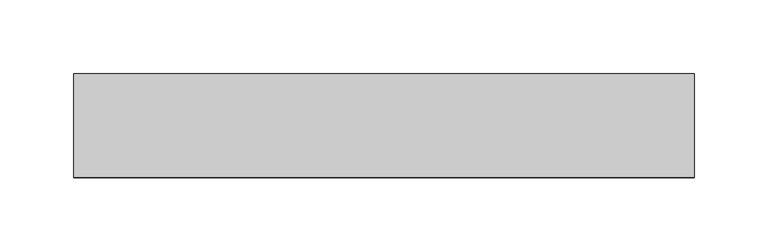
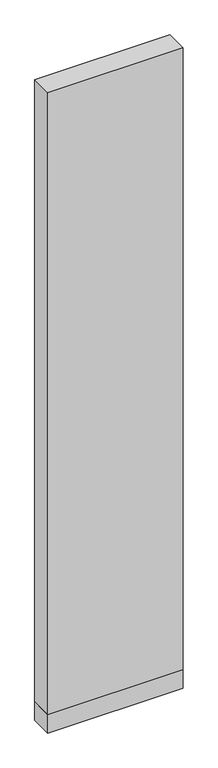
"""IFC4 building model written with IfcOpenShell, lengths in millimetres: plate geometry, 営_パーティションパネル_下部 : パーティションパネル_下部."""

import ifcopenshell
import ifcopenshell.guid

model = None  # the IFC model being written
_history = None  # IfcOwnerHistory: only IFC2X3 demands one
_inside = {}  # id of a spatial element -> (the spatial element, [elements in it])
_under = {}  # id of a project, library or spatial element -> (it, [spatial elements below it])
_declared = {}  # id of a project -> (the project, [libraries it declares])
_typed = {}  # id of a type object -> (the type object, [elements of that type])
_made_of = {}  # id of a material, layer set ... -> (it, [elements and type objects made of it])


def new_model(schema):
    """Start an empty IFC model of exactly this schema.

    Asked for "IFC4X3", IfcOpenShell would pick the latest addendum, in which some entities
    have other attributes; the version numbers below select the first issue.
    IFC2X3 requires an IfcOwnerHistory on every rooted entity: one is made here for all.
    """
    global model, _history
    if schema == "IFC4X3":
        model = ifcopenshell.file(schema_version=(4, 3, 0, 0))
    else:
        model = ifcopenshell.file(schema=schema)
    _inside.clear()
    _under.clear()
    _declared.clear()
    _typed.clear()
    _made_of.clear()
    _history = None
    if model.schema == "IFC2X3":
        org = make("IfcOrganization", Name="unknown")
        user = make(
            "IfcPersonAndOrganization",
            ThePerson=make("IfcPerson", FamilyName="unknown"),
            TheOrganization=org,
        )
        app = make(
            "IfcApplication",
            ApplicationDeveloper=org,
            Version="unknown",
            ApplicationFullName="unknown",
            ApplicationIdentifier="unknown",
        )
        _history = make(
            "IfcOwnerHistory",
            OwningUser=user,
            OwningApplication=app,
            ChangeAction="ADDED",
            CreationDate=0,
        )
    return model


def make(cls, **values):
    """One entity of the class cls with the attributes given. An attribute that is None is left unset."""
    return model.create_entity(
        cls, **{name: value for name, value in values.items() if value is not None}
    )


def rooted(cls, **values):
    """An entity with a GlobalId (a new one), such as an element, a storey or a relation."""
    return make(cls, GlobalId=ifcopenshell.guid.new(), OwnerHistory=_history, **values)


def si_unit(unit_type, name, prefix=None):
    """IfcSIUnit, for example si_unit("LENGTHUNIT", "METRE", prefix="MILLI")."""
    return make("IfcSIUnit", UnitType=unit_type, Prefix=prefix, Name=name)


def assignment(units):
    """IfcUnitAssignment: the units of a project."""
    return None if units is None else make("IfcUnitAssignment", Units=units)


def point(xyz):
    """IfcCartesianPoint."""
    return None if xyz is None else make("IfcCartesianPoint", Coordinates=xyz)


def direction(xyz):
    """IfcDirection."""
    return None if xyz is None else make("IfcDirection", DirectionRatios=xyz)


def frame(location, z_axis=None, x_axis=None):
    """IfcAxis2Placement3D, a coordinate frame: its origin and axes. An axis left out is left unset."""
    return make(
        "IfcAxis2Placement3D",
        Location=point(location),
        Axis=direction(z_axis),
        RefDirection=direction(x_axis),
    )


def origin():
    """The frame at (0, 0, 0) with its axes left unset."""
    return frame((0.0, 0.0, 0.0))


def origin_with_axes():
    """The frame at (0, 0, 0) with the z axis (0, 0, 1) and the x axis (1, 0, 0) written out."""
    return frame((0.0, 0.0, 0.0), z_axis=(0.0, 0.0, 1.0), x_axis=(1.0, 0.0, 0.0))


def place(relative_to, where):
    """IfcLocalPlacement: puts the frame where relative to a parent placement (None: the world)."""
    return make(
        "IfcLocalPlacement", PlacementRelTo=relative_to, RelativePlacement=where
    )


def context(
    kind, dimensions, precision=None, world=None, true_north=None, identifier=None
):
    """IfcGeometricRepresentationContext, for example the 3D "Model" context."""
    return make(
        "IfcGeometricRepresentationContext",
        ContextIdentifier=identifier,
        ContextType=kind,
        CoordinateSpaceDimension=dimensions,
        Precision=precision,
        WorldCoordinateSystem=world,
        TrueNorth=true_north,
    )


def project(units=None, contexts=None):
    """IfcProject with its units and contexts."""
    return rooted(
        "IfcProject",
        Name="project",
        RepresentationContexts=contexts,
        UnitsInContext=assignment(units),
    )


def spatial(cls, under=None, at=None, **own):
    """A site, building, storey or space (cls), placed at a placement, below another one or the project."""
    s = rooted(cls, ObjectPlacement=at, **own)
    if under is not None:
        _under.setdefault(under.id(), (under, []))[1].append(s)
    return s


def polyline(points):
    """IfcPolyline through the points."""
    return make("IfcPolyline", Points=[point(p) for p in points])


def outline(outer, holes=None, kind="AREA"):
    """IfcArbitraryClosedProfileDef: a profile drawn as a closed curve; with holes, ...WithVoids."""
    if holes is None:
        return make("IfcArbitraryClosedProfileDef", ProfileType=kind, OuterCurve=outer)
    return make(
        "IfcArbitraryProfileDefWithVoids",
        ProfileType=kind,
        OuterCurve=outer,
        InnerCurves=holes,
    )


def extrude(swept, where, along, depth):
    """IfcExtrudedAreaSolid: the profile swept, set in the frame where, extruded along a direction by depth."""
    return make(
        "IfcExtrudedAreaSolid",
        SweptArea=swept,
        Position=where,
        ExtrudedDirection=direction(along),
        Depth=depth,
    )


def shape(context_of_items, identifier, shape_type, items):
    """IfcShapeRepresentation: the items that make up one representation, for example the "Body"."""
    return make(
        "IfcShapeRepresentation",
        ContextOfItems=context_of_items,
        RepresentationIdentifier=identifier,
        RepresentationType=shape_type,
        Items=items,
    )


def source(mapping_origin, context_of_items, identifier, shape_type, items):
    """IfcRepresentationMap: a shape defined once, which mapped items show again and again."""
    return make(
        "IfcRepresentationMap",
        MappingOrigin=mapping_origin,
        MappedRepresentation=shape(context_of_items, identifier, shape_type, items),
    )


def transform(
    local_origin,
    x_axis=None,
    y_axis=None,
    z_axis=None,
    scale=None,
    scale2=None,
    scale3=None,
    uniform=True,
):
    """IfcCartesianTransformationOperator3D, or its non-uniform kind. x_axis, y_axis, z_axis: its Axis1, 2, 3."""
    if uniform:
        return make(
            "IfcCartesianTransformationOperator3D",
            Axis1=direction(x_axis),
            Axis2=direction(y_axis),
            LocalOrigin=point(local_origin),
            Scale=scale,
            Axis3=direction(z_axis),
        )
    return make(
        "IfcCartesianTransformationOperator3DnonUniform",
        Axis1=direction(x_axis),
        Axis2=direction(y_axis),
        LocalOrigin=point(local_origin),
        Scale=scale,
        Axis3=direction(z_axis),
        Scale2=scale2,
        Scale3=scale3,
    )


def mapped(mapping_source, mapping_target):
    """IfcMappedItem: shows the shape of a source again, moved by a transform."""
    return make(
        "IfcMappedItem", MappingSource=mapping_source, MappingTarget=mapping_target
    )


def made_of(thing, what):
    """Note that an element or type object is made of a material, layer set ...; save() writes the relation."""
    if what is not None:
        _made_of.setdefault(what.id(), (what, []))[1].append(thing)
    return thing


def element(
    cls,
    number,
    at=None,
    inside=None,
    cuts=None,
    type_object=None,
    material=None,
    context=None,
    identifier="Body",
    shape_type=None,
    held_by="IfcProductDefinitionShape",
    body=None,
    shapes=None,
    **own,
):
    """One element of the class cls, such as IfcWall. Its Tag is "e" and its number.

    at: its placement. inside: the storey or other place that contains it. cuts: it is an
    opening in that element (IfcRelVoidsElement). A single representation is given by context,
    identifier, shape_type and body (its items); several are given by shapes. held_by: the class
    of the entity that holds the representations. save() writes the other relations.
    """
    e = rooted(cls, Tag="e%d" % number, ObjectPlacement=at, **own)
    if body is not None:
        shapes = [shape(context, identifier, shape_type, body)]
    if shapes is not None:
        e.Representation = make(held_by, Representations=shapes)
    if inside is not None:
        _inside.setdefault(inside.id(), (inside, []))[1].append(e)
    if cuts is not None:
        rooted(
            "IfcRelVoidsElement", RelatingBuildingElement=cuts, RelatedOpeningElement=e
        )
    if type_object is not None:
        _typed.setdefault(type_object.id(), (type_object, []))[1].append(e)
    return made_of(e, material)


def aggregate(whole, parts):
    """IfcRelAggregates: a whole, such as a stair, and the parts it consists of."""
    return rooted("IfcRelAggregates", RelatingObject=whole, RelatedObjects=parts)


def save(model, path):
    """Write the relations noted so far, then the file.

    IfcRelAggregates (storeys below a building ...), IfcRelContainedInSpatialStructure (elements
    in a storey), IfcRelDefinesByType, IfcRelAssociatesMaterial and IfcRelDeclares: one each for
    every whole, place, type object, material and project.
    """
    for whole, parts in _under.values():
        aggregate(whole, parts)
    for where, things in _inside.values():
        rooted(
            "IfcRelContainedInSpatialStructure",
            RelatedElements=things,
            RelatingStructure=where,
        )
    for kind, things in _typed.values():
        rooted("IfcRelDefinesByType", RelatedObjects=things, RelatingType=kind)
    for what, things in _made_of.values():
        rooted("IfcRelAssociatesMaterial", RelatedObjects=things, RelatingMaterial=what)
    for by, libraries in _declared.values():
        rooted("IfcRelDeclares", RelatingContext=by, RelatedDefinitions=libraries)
    model.write(path)


def plate_d5ff2d27(model_context):
    return source(origin(), model_context, "Body", "SweptSolid", [
        extrude(outline(polyline([(-210.0, -35.0), (-210.0, 35.0), (210.0, 35.0), (210.0, -35.0), (-210.0, -35.0)])), origin_with_axes(), (0.0, 0.0, 1.0), 60.0),
        extrude(outline(polyline([(-210.0, -35.0), (-210.0, 35.0), (210.0, 35.0), (210.0, -35.0), (-210.0, -35.0)])), frame((0.0, 0.0, 60.0), z_axis=(0.0, 0.0, 1.0), x_axis=(1.0, 0.0, 0.0)), (0.0, 0.0, 1.0), 2040.0),
    ])


if __name__ == "__main__":
    model = new_model("IFC4")
    model_context = context("Model", 3, world=origin())
    ifc_project = project(units=[si_unit("LENGTHUNIT", "METRE", prefix="MILLI")], contexts=[model_context])
    site = spatial("IfcSite", under=ifc_project)
    building = spatial("IfcBuilding", under=site)
    placement = place(None, origin())
    plate_shape = plate_d5ff2d27(model_context)
    element("IfcPlate", 1, ObjectType="営_パーティションパネル_下部 : パーティションパネル_下部", at=placement, inside=building, context=model_context, shape_type="MappedRepresentation", body=[
        mapped(plate_shape, transform((0.0, 0.0, 0.0), x_axis=(1.0, 0.0, 0.0), y_axis=(0.0, 1.0, 0.0), z_axis=(0.0, 0.0, 1.0))),
    ])
    save(model, "model.ifc")
